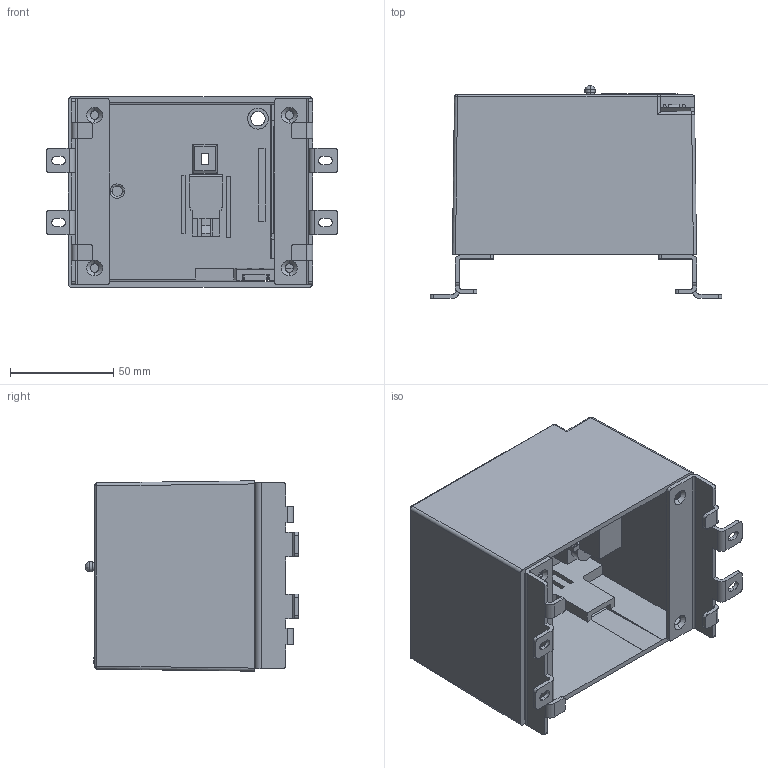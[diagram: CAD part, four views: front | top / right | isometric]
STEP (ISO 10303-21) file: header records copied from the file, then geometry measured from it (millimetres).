
FILE_DESCRIPTION (( 'STEP AP203' ), '1' );
FILE_NAME ('天正TGM1N-160 电操外形.STEP', '2026-06-11T02:40:24', ( 'Windows 用户' ), ( 'Microsoft' ), 'SwSTEP 2.0', 'SolidWorks 2022', '' );
FILE_SCHEMA (( 'CONFIG_CONTROL_DESIGN' ));
Length unit declared in the file: millimetre
Products named in the file (8): CD2-100褲极; 毞淏TGM1N-160 萇紱俋倛; 峚雄賑璃1; CD2-250 萇紱俋倛; 芵隴誘欶; TGM1N-160 萇紱褐殤; 萇紱傷赽; 忒紱忒梟
Assembly tree (8 placements, depth 3):
  毞淏TGM1N-160 萇紱俋倛
    CD2-250 萇紱俋倛
      CD2-100褲极
    TGM1N-160 萇紱褐殤  x2
    芵隴誘欶
    峚雄賑璃1
    忒紱忒梟
    萇紱傷赽
Bounding box: 140.94 x 102.86 x 92.1 mm (x, y, z)
Volume: 134278.4 mm3; surface area: 112565.5 mm2
Topology: 8 solids, 8 shells, 596 faces, 1637 edges, 1071 vertices
Faces by surface type: plane 426, cylinder 138, bspline 12, torus 12, cone 8
Entity records: 18873 total; most frequent: CARTESIAN_POINT 4753, ORIENTED_EDGE 2868, DIRECTION 2579, EDGE_CURVE 1434, VECTOR 1073, LINE 1073, VERTEX_POINT 939, AXIS2_PLACEMENT_3D 753
